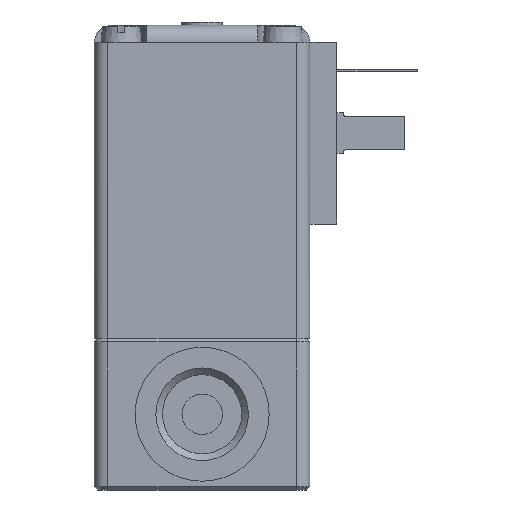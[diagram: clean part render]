
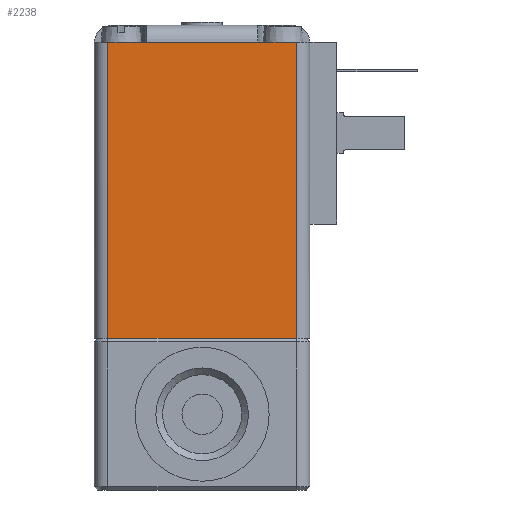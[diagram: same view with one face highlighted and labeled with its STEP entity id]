
A CAD part, left-side view. The second image highlights one B-rep face of the part: STEP entity #2238.
In plain terms, the highlighted planar face has unit normal (-1, 0, 0).
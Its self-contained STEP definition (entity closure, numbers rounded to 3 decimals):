
#2164=CARTESIAN_POINT('',(-16.0,8.25,66.5));
#2165=VERTEX_POINT('',#2164);
#2173=CARTESIAN_POINT('',(-16.0,-8.25,66.5));
#2174=VERTEX_POINT('',#2173);
#2175=CARTESIAN_POINT('',(-16.0,8.25,66.5));
#2176=DIRECTION('',(0.0,-1.0,0.0));
#2177=VECTOR('',#2176,16.5);
#2178=LINE('',#2175,#2177);
#2179=EDGE_CURVE('',#2165,#2174,#2178,.T.);
#2192=CARTESIAN_POINT('',(-16.0,-16.0,22.5));
#2193=DIRECTION('',(-1.0,0.0,0.0));
#2194=DIRECTION('',(0.0,0.0,1.0));
#2195=AXIS2_PLACEMENT_3D('',#2192,#2193,#2194);
#2196=PLANE('',#2195);
#2197=ORIENTED_EDGE('',*,*,#2179,.F.);
#2198=CARTESIAN_POINT('',(-16.0,14.0,66.5));
#2199=VERTEX_POINT('',#2198);
#2200=CARTESIAN_POINT('',(-16.0,8.25,66.5));
#2201=DIRECTION('',(0.0,1.0,0.0));
#2202=VECTOR('',#2201,5.75);
#2203=LINE('',#2200,#2202);
#2204=EDGE_CURVE('',#2165,#2199,#2203,.T.);
#2205=ORIENTED_EDGE('',*,*,#2204,.T.);
#2206=CARTESIAN_POINT('',(-16.0,14.,22.5));
#2207=VERTEX_POINT('',#2206);
#2208=CARTESIAN_POINT('',(-16.0,14.,22.5));
#2209=DIRECTION('',(0.0,0.0,1.0));
#2210=VECTOR('',#2209,44.0);
#2211=LINE('',#2208,#2210);
#2212=EDGE_CURVE('',#2207,#2199,#2211,.T.);
#2213=ORIENTED_EDGE('',*,*,#2212,.F.);
#2214=CARTESIAN_POINT('',(-16.0,-14.,22.5));
#2215=VERTEX_POINT('',#2214);
#2216=CARTESIAN_POINT('',(-16.0,-14.,22.5));
#2217=DIRECTION('',(0.0,1.0,0.0));
#2218=VECTOR('',#2217,28.);
#2219=LINE('',#2216,#2218);
#2220=EDGE_CURVE('',#2215,#2207,#2219,.T.);
#2221=ORIENTED_EDGE('',*,*,#2220,.F.);
#2222=CARTESIAN_POINT('',(-16.0,-14.0,66.5));
#2223=VERTEX_POINT('',#2222);
#2224=CARTESIAN_POINT('',(-16.0,-14.0,66.5));
#2225=DIRECTION('',(0.0,0.0,-1.0));
#2226=VECTOR('',#2225,44.0);
#2227=LINE('',#2224,#2226);
#2228=EDGE_CURVE('',#2223,#2215,#2227,.T.);
#2229=ORIENTED_EDGE('',*,*,#2228,.F.);
#2230=CARTESIAN_POINT('',(-16.0,-14.0,66.5));
#2231=DIRECTION('',(0.0,1.0,0.0));
#2232=VECTOR('',#2231,5.75);
#2233=LINE('',#2230,#2232);
#2234=EDGE_CURVE('',#2223,#2174,#2233,.T.);
#2235=ORIENTED_EDGE('',*,*,#2234,.T.);
#2236=EDGE_LOOP('',(#2197,#2205,#2213,#2221,#2229,#2235));
#2237=FACE_OUTER_BOUND('',#2236,.T.);
#2238=ADVANCED_FACE('',(#2237),#2196,.T.);
